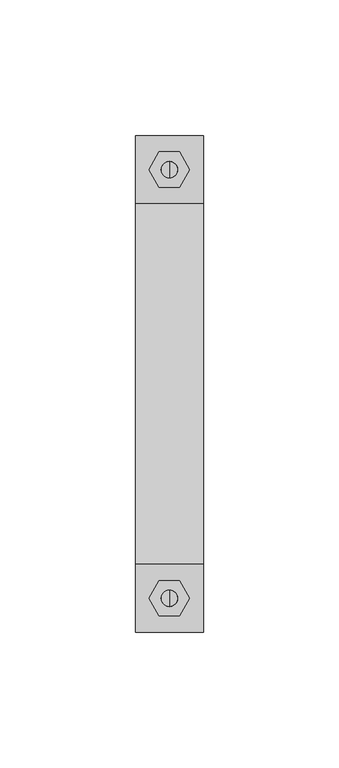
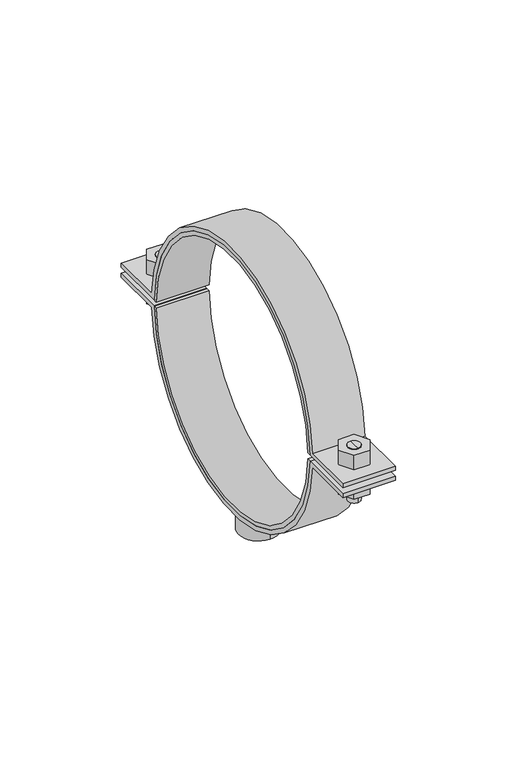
"""IFC4 building model written with IfcOpenShell, lengths in millimetres: valve geometry, Superfix DG2 Clamp (based on pipe) : Superfix DG2 Clamp (based on pipe)."""

from ifc_helpers import new_model, si_unit, point, frame, frame_2d, origin, origin_2d, place, context, project, spatial, polyline, circle_curve, trimmed, segment, composite_curve, outline, extrude, source, transform, mapped, element, save
from ifc_brep_helpers import plane_surface, cylinder_surface, advanced_brep


def valve_4dfea500(model_context):
    return source(origin(), model_context, "Body", "SolidModel", [
        advanced_brep(
        [(0.0, 82.0, 342.4002332), (0.0, 76.0, 342.4002332), (0.0, 76.0, 357.0002332), (0.0, 82.0, 357.0002332), (0.0, 79.0, 342.4002332)],
        [
            (0, 1, circle_curve(frame((0.0, 79.0, 342.4002332), z_axis=(0.0, 0.0, 1.0), x_axis=(0.0, 1.0, 0.0)), 3.0)),
            (1, 2),
            (2, 3, circle_curve(frame((0.0, 79.0, 357.0002332), z_axis=(0.0, 0.0, -1.0), x_axis=(0.0, 1.0, 0.0)), 3.0)),
            (3, 0),
            (1, 0, circle_curve(frame((0.0, 79.0, 342.4002332), z_axis=(0.0, 0.0, 1.0), x_axis=(0.0, 1.0, 0.0)), 3.0)),
            (3, 2, circle_curve(frame((0.0, 79.0, 357.0002332), z_axis=(0.0, 0.0, -1.0), x_axis=(0.0, 1.0, 0.0)), 3.0)),
            (0, 4),
            (4, 1),
        ],
        [
            cylinder_surface(frame((0.0, 79.0, 356.7808426), z_axis=(0.0, 0.0, 1.0), x_axis=(0.0, 1.0, 0.0)), 3.0),
            plane_surface(frame((0.0, 79.0, 342.4002332), z_axis=(0.0, 0.0, -1.0), x_axis=(0.0, 1.0, 0.0))),
            plane_surface(frame((13.75, -91.5, 357.0002332), z_axis=(0.0, 0.0, 1.0), x_axis=(-1.0, 0.0, 0.0))),
        ],
        [
            (0, [[1, 2, 3, 4]]),
            (0, [[5, -4, 6, -2]]),
            (1, [[-1, 7, 8]]),
            (1, [[-5, -8, -7]]),
            (2, [[-3, -6]]),
        ],
    ),
        advanced_brep(
        [(0.0, 76.0, 369.6002332), (0.0, 82.0, 369.6002332), (0.0, 82.0, 360.0002332), (0.0, 76.0, 360.0002332), (0.0, 79.0, 369.6002332)],
        [
            (0, 1, circle_curve(frame((0.0, 79.0, 369.6002332), z_axis=(0.0, 0.0, -1.0), x_axis=(0.0, 1.0, 0.0)), 3.0)),
            (1, 2),
            (2, 3, circle_curve(frame((0.0, 79.0, 360.0002332), z_axis=(0.0, 0.0, 1.0), x_axis=(0.0, 1.0, 0.0)), 3.0)),
            (3, 0),
            (1, 0, circle_curve(frame((0.0, 79.0, 369.6002332), z_axis=(0.0, 0.0, -1.0), x_axis=(0.0, 1.0, 0.0)), 3.0)),
            (3, 2, circle_curve(frame((0.0, 79.0, 360.0002332), z_axis=(0.0, 0.0, 1.0), x_axis=(0.0, 1.0, 0.0)), 3.0)),
            (0, 4),
            (4, 1),
        ],
        [
            cylinder_surface(frame((0.0, 79.0, 356.7808426), z_axis=(0.0, 0.0, 1.0), x_axis=(0.0, 1.0, 0.0)), 3.0),
            plane_surface(frame((0.0, 79.0, 369.6002332), z_axis=(0.0, 0.0, 1.0), x_axis=(0.0, 1.0, 0.0))),
            plane_surface(frame((13.75, 91.5, 360.0002332), z_axis=(0.0, 0.0, -1.0), x_axis=(-1.0, 0.0, 0.0))),
        ],
        [
            (0, [[1, 2, 3, 4]]),
            (0, [[5, -4, 6, -2]]),
            (1, [[-1, 7, 8]]),
            (1, [[-5, -8, -7]]),
            (2, [[-3, -6]]),
        ],
    ),
        advanced_brep(
        [(0.0, -82.0, 369.6002332), (0.0, -76.0, 369.6002332), (0.0, -76.0, 360.0002332), (0.0, -82.0, 360.0002332), (0.0, -79.0, 369.6002332)],
        [
            (0, 1, circle_curve(frame((0.0, -79.0, 369.6002332), z_axis=(0.0, 0.0, -1.0), x_axis=(0.0, -1.0, 0.0)), 3.0)),
            (1, 2),
            (2, 3, circle_curve(frame((0.0, -79.0, 360.0002332), z_axis=(0.0, 0.0, 1.0), x_axis=(0.0, -1.0, 0.0)), 3.0)),
            (3, 0),
            (1, 0, circle_curve(frame((0.0, -79.0, 369.6002332), z_axis=(0.0, 0.0, -1.0), x_axis=(0.0, -1.0, 0.0)), 3.0)),
            (3, 2, circle_curve(frame((0.0, -79.0, 360.0002332), z_axis=(0.0, 0.0, 1.0), x_axis=(0.0, -1.0, 0.0)), 3.0)),
            (0, 4),
            (4, 1),
        ],
        [
            cylinder_surface(frame((0.0, -79.0, 356.7808426), z_axis=(0.0, 0.0, -1.0), x_axis=(0.0, -1.0, 0.0)), 3.0),
            plane_surface(frame((0.0, -79.0, 369.6002332), z_axis=(0.0, 0.0, 1.0), x_axis=(0.0, -1.0, 0.0))),
            plane_surface(frame((13.75, 91.5, 360.0002332), z_axis=(0.0, 0.0, -1.0), x_axis=(-1.0, 0.0, 0.0))),
        ],
        [
            (0, [[1, 2, 3, 4]]),
            (0, [[5, -4, 6, -2]]),
            (1, [[-1, 7, 8]]),
            (1, [[-5, -8, -7]]),
            (2, [[-3, -6]]),
        ],
    ),
        advanced_brep(
        [(0.0, -76.0, 342.4002332), (0.0, -82.0, 342.4002332), (0.0, -82.0, 357.0002332), (0.0, -76.0, 357.0002332), (0.0, -79.0, 342.4002332)],
        [
            (0, 1, circle_curve(frame((0.0, -79.0, 342.4002332), z_axis=(0.0, 0.0, 1.0), x_axis=(0.0, -1.0, 0.0)), 3.0)),
            (1, 2),
            (2, 3, circle_curve(frame((0.0, -79.0, 357.0002332), z_axis=(0.0, 0.0, -1.0), x_axis=(0.0, -1.0, 0.0)), 3.0)),
            (3, 0),
            (1, 0, circle_curve(frame((0.0, -79.0, 342.4002332), z_axis=(0.0, 0.0, 1.0), x_axis=(0.0, -1.0, 0.0)), 3.0)),
            (3, 2, circle_curve(frame((0.0, -79.0, 357.0002332), z_axis=(0.0, 0.0, -1.0), x_axis=(0.0, -1.0, 0.0)), 3.0)),
            (0, 4),
            (4, 1),
        ],
        [
            cylinder_surface(frame((0.0, -79.0, 356.7808426), z_axis=(0.0, 0.0, -1.0), x_axis=(0.0, -1.0, 0.0)), 3.0),
            plane_surface(frame((0.0, -79.0, 342.4002332), z_axis=(0.0, 0.0, -1.0), x_axis=(0.0, -1.0, 0.0))),
            plane_surface(frame((13.75, -91.5, 357.0002332), z_axis=(0.0, 0.0, 1.0), x_axis=(-1.0, 0.0, 0.0))),
        ],
        [
            (0, [[1, 2, 3, 4]]),
            (0, [[5, -4, 6, -2]]),
            (1, [[-1, 7, 8]]),
            (1, [[-5, -8, -7]]),
            (2, [[-3, -6]]),
        ],
    ),
        extrude(outline(composite_curve([segment(trimmed(circle_curve(frame_2d((0.0, 358.5002332)), 64.5), [point((-64.4825558, 357.0002332))], [point((64.4825558, 357.0002332))], True, "CARTESIAN"), True, "CONTINUOUS"), segment(polyline([(64.4825558, 357.0002332), (91.5, 357.0002332), (91.5, 355.0002332), (66.4078309, 355.0002332)]), True, "CONTINUOUS"), segment(trimmed(circle_curve(frame_2d((0.0, 358.5002332)), 66.5), [point((66.4078309, 355.0002332))], [point((-66.4078309, 355.0002332))], False, "CARTESIAN"), True, "CONTINUOUS"), segment(polyline([(-66.4078309, 355.0002332), (-91.5, 355.0002332), (-91.5, 357.0002332), (-64.4825558, 357.0002332)]), True, "CONTINUOUS")], self_intersect=False)), frame((-12.5, 0.0, 0.0), z_axis=(1.0, 0.0, 0.0), x_axis=(0.0, 1.0, 0.0)), (0.0, 0.0, 1.0), 25.0),
        extrude(outline(composite_curve([segment(trimmed(circle_curve(frame_2d((0.0, 358.5002332)), 64.5), [point((64.4825558, 360.0002332))], [point((-64.4825558, 360.0002332))], True, "CARTESIAN"), True, "CONTINUOUS"), segment(polyline([(-64.4825558, 360.0002332), (-91.5, 360.0002332), (-91.5, 362.0002332), (-66.4078309, 362.0002332)]), True, "CONTINUOUS"), segment(trimmed(circle_curve(frame_2d((0.0, 358.5002332)), 66.5), [point((-66.4078309, 362.0002332))], [point((66.4078309, 362.0002332))], False, "CARTESIAN"), True, "CONTINUOUS"), segment(polyline([(66.4078309, 362.0002332), (91.5, 362.0002332), (91.5, 360.0002332), (64.4825558, 360.0002332)]), True, "CONTINUOUS")], self_intersect=False)), frame((-12.5, 0.0, 0.0), z_axis=(1.0, 0.0, 0.0), x_axis=(0.0, 1.0, 0.0)), (0.0, 0.0, 1.0), 25.0),
        extrude(outline(polyline([(7.5055535, -79.0), (3.7527767, -85.5), (-3.7527767, -85.5), (-7.5055535, -79.0), (-3.7527767, -72.5), (3.7527767, -72.5), (7.5055535, -79.0)]), holes=[composite_curve([segment(trimmed(circle_curve(frame_2d((0.0, -79.0)), 3.0), [point((3.0, -79.0))], [point((-3.0, -79.0))], True, "CARTESIAN"), True, "CONTINUOUS"), segment(trimmed(circle_curve(frame_2d((0.0, -79.0)), 3.0), [point((-3.0, -79.0))], [point((3.0, -79.0))], True, "CARTESIAN"), True, "CONTINUOUS")], self_intersect=False)]), frame((0.0, 0.0, 362.0002332), z_axis=(0.0, 0.0, 1.0), x_axis=(1.0, 0.0, 0.0)), (0.0, 0.0, 1.0), 7.6),
        extrude(outline(polyline([(7.5055535, 79.0), (3.7527767, 72.5), (-3.7527767, 72.5), (-7.5055535, 79.0), (-3.7527767, 85.5), (3.7527767, 85.5), (7.5055535, 79.0)]), holes=[composite_curve([segment(trimmed(circle_curve(frame_2d((0.0, 79.0)), 3.0), [point((3.0, 79.0))], [point((-3.0, 79.0))], True, "CARTESIAN"), True, "CONTINUOUS"), segment(trimmed(circle_curve(frame_2d((0.0, 79.0)), 3.0), [point((-3.0, 79.0))], [point((3.0, 79.0))], True, "CARTESIAN"), True, "CONTINUOUS")], self_intersect=False)]), frame((0.0, 0.0, 362.0002332), z_axis=(0.0, 0.0, 1.0), x_axis=(1.0, 0.0, 0.0)), (0.0, 0.0, 1.0), 7.6),
        extrude(outline(polyline([(7.5055535, -79.0), (3.7527767, -85.5), (-3.7527767, -85.5), (-7.5055535, -79.0), (-3.7527767, -72.5), (3.7527767, -72.5), (7.5055535, -79.0)]), holes=[composite_curve([segment(trimmed(circle_curve(frame_2d((0.0, -79.0)), 3.0), [point((3.0, -79.0))], [point((-3.0, -79.0))], True, "CARTESIAN"), True, "CONTINUOUS"), segment(trimmed(circle_curve(frame_2d((0.0, -79.0)), 3.0), [point((-3.0, -79.0))], [point((3.0, -79.0))], True, "CARTESIAN"), True, "CONTINUOUS")], self_intersect=False)]), frame((0.0, 0.0, 347.4002332), z_axis=(0.0, 0.0, 1.0), x_axis=(1.0, 0.0, 0.0)), (0.0, 0.0, 1.0), 7.6),
        extrude(outline(polyline([(7.5055535, 79.0), (3.7527767, 72.5), (-3.7527767, 72.5), (-7.5055535, 79.0), (-3.7527767, 85.5), (3.7527767, 85.5), (7.5055535, 79.0)]), holes=[composite_curve([segment(trimmed(circle_curve(frame_2d((0.0, 79.0)), 3.0), [point((3.0, 79.0))], [point((-3.0, 79.0))], True, "CARTESIAN"), True, "CONTINUOUS"), segment(trimmed(circle_curve(frame_2d((0.0, 79.0)), 3.0), [point((-3.0, 79.0))], [point((3.0, 79.0))], True, "CARTESIAN"), True, "CONTINUOUS")], self_intersect=False)]), frame((0.0, 0.0, 347.4002332), z_axis=(0.0, 0.0, 1.0), x_axis=(1.0, 0.0, 0.0)), (0.0, 0.0, 1.0), 7.6),
        extrude(outline(composite_curve([segment(trimmed(circle_curve(origin_2d(), 9.5), [point((0.0, 9.5))], [point((0.0, -9.5))], False, "CARTESIAN"), True, "CONTINUOUS"), segment(trimmed(circle_curve(origin_2d(), 9.5), [point((0.0, -9.5))], [point((0.0, 9.5))], False, "CARTESIAN"), True, "CONTINUOUS")], self_intersect=False), holes=[composite_curve([segment(trimmed(circle_curve(origin_2d(), 6.0), [point((0.0, 6.0))], [point((0.0, -6.0))], True, "CARTESIAN"), True, "CONTINUOUS"), segment(trimmed(circle_curve(origin_2d(), 6.0), [point((0.0, -6.0))], [point((0.0, 6.0))], True, "CARTESIAN"), True, "CONTINUOUS")], self_intersect=False)]), frame((0.0, 0.0, 280.0002332), z_axis=(0.0, 0.0, 1.0), x_axis=(1.0, 0.0, 0.0)), (0.0, 0.0, 1.0), 14.0),
        extrude(outline(composite_curve([segment(trimmed(circle_curve(frame_2d((0.0, 358.5002332)), 62.5), [point((62.4819974, 360.0002332))], [point((-62.4819974, 360.0002332))], True, "CARTESIAN"), True, "CONTINUOUS"), segment(polyline([(-62.4819974, 360.0002332), (-64.4825558, 360.0002332)]), True, "CONTINUOUS"), segment(trimmed(circle_curve(frame_2d((0.0, 358.5002332)), 64.5), [point((-64.4825558, 360.0002332))], [point((64.4825558, 360.0002332))], False, "CARTESIAN"), True, "CONTINUOUS"), segment(polyline([(64.4825558, 360.0002332), (62.4819974, 360.0002332)]), True, "CONTINUOUS")], self_intersect=False)), frame((-12.5, 0.0, 0.0), z_axis=(1.0, 0.0, 0.0), x_axis=(0.0, 1.0, 0.0)), (0.0, 0.0, 1.0), 25.0),
        extrude(outline(composite_curve([segment(polyline([(62.4819974, 357.0002332), (64.4825558, 357.0002332)]), True, "CONTINUOUS"), segment(trimmed(circle_curve(frame_2d((0.0, 358.5002332)), 64.5), [point((64.4825558, 357.0002332))], [point((-64.4825558, 357.0002332))], False, "CARTESIAN"), True, "CONTINUOUS"), segment(polyline([(-64.4825558, 357.0002332), (-62.4819974, 357.0002332)]), True, "CONTINUOUS"), segment(trimmed(circle_curve(frame_2d((0.0, 358.5002332)), 62.5), [point((-62.4819974, 357.0002332))], [point((62.4819974, 357.0002332))], True, "CARTESIAN"), True, "CONTINUOUS")], self_intersect=False)), frame((-12.5, 0.0, 0.0), z_axis=(1.0, 0.0, 0.0), x_axis=(0.0, 1.0, 0.0)), (0.0, 0.0, 1.0), 25.0),
    ])


if __name__ == "__main__":
    model = new_model("IFC4")
    model_context = context("Model", 3, world=origin())
    ifc_project = project(units=[si_unit("LENGTHUNIT", "METRE", prefix="MILLI")], contexts=[model_context])
    site = spatial("IfcSite", under=ifc_project)
    building = spatial("IfcBuilding", under=site)
    placement = place(None, origin())
    valve_shape = valve_4dfea500(model_context)
    element("IfcValve", 1, ObjectType="Superfix DG2 Clamp (based on pipe) : Superfix DG2 Clamp (based on pipe)", at=placement, inside=building, context=model_context, shape_type="MappedRepresentation", body=[
        mapped(valve_shape, transform((0.0, 0.0, 0.0), x_axis=(1.0, 0.0, 0.0), y_axis=(0.0, 1.0, 0.0), z_axis=(0.0, 0.0, 1.0))),
    ])
    save(model, "model.ifc")
